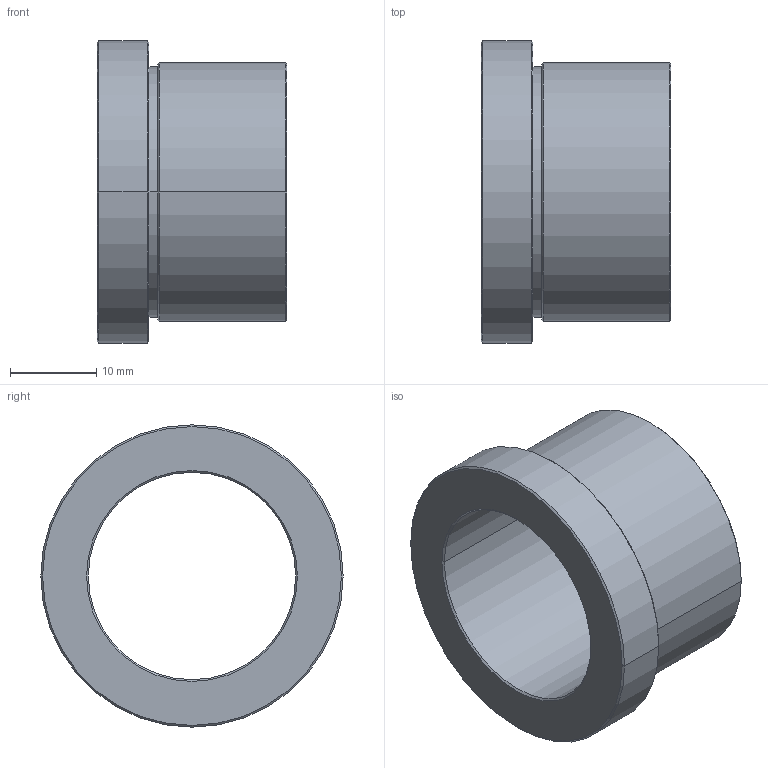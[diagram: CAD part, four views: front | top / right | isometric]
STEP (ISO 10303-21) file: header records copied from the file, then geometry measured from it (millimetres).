
FILE_DESCRIPTION (( 'STEP AP214' ), '1' );
FILE_NAME ('R03_022x24.STEP', '2015-03-05T14:47:12', ( 'TGL' ), ( '' ), 'SwSTEP 2.0', 'SolidWorks 2011', '' );
FILE_SCHEMA (( 'AUTOMOTIVE_DESIGN' ));
Length unit declared in the file: millimetre
Products named in the file (1): R03_022x24
Bounding box: 21.97 x 35 x 35 mm (x, y, z)
Volume: 6879 mm3; surface area: 4773.6 mm2
Topology: 1 solids, 1 shells, 23 faces, 46 edges, 26 vertices
Faces by surface type: cone 10, cylinder 8, plane 3, torus 2
Entity records: 700 total; most frequent: DIRECTION 122, CARTESIAN_POINT 96, ORIENTED_EDGE 92, AXIS2_PLACEMENT_3D 52, EDGE_CURVE 46, CIRCLE 28, VERTEX_POINT 26, EDGE_LOOP 26
